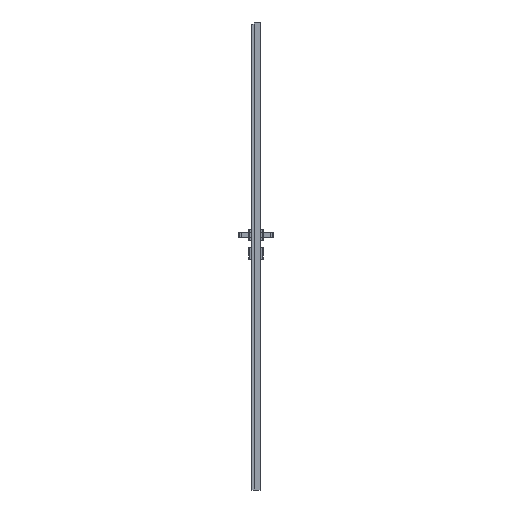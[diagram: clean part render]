
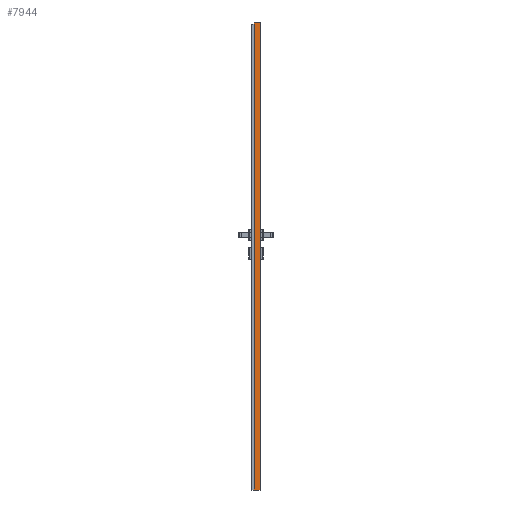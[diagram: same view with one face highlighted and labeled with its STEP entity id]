
A CAD part, left-side view. The second image highlights one B-rep face of the part: STEP entity #7944.
In plain terms, the highlighted planar face has unit normal (-1, 0, 0).
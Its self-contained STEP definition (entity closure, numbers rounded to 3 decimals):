
#7944=ADVANCED_FACE('',(#13792),#11930,.F.);
#11930=PLANE('',#71527);
#13792=FACE_OUTER_BOUND('',#17836,.T.);
#17836=EDGE_LOOP('',(#22664,#22665,#22666,#22667,#22668));
#22664=ORIENTED_EDGE('',*,*,#50018,.T.);
#22665=ORIENTED_EDGE('',*,*,#50019,.T.);
#22666=ORIENTED_EDGE('',*,*,#49927,.F.);
#22667=ORIENTED_EDGE('',*,*,#50005,.F.);
#22668=ORIENTED_EDGE('',*,*,#50015,.T.);
#43175=VERTEX_POINT('',#100687);
#43176=VERTEX_POINT('',#100689);
#43243=VERTEX_POINT('',#100845);
#43251=VERTEX_POINT('',#100866);
#43252=VERTEX_POINT('',#100871);
#49927=EDGE_CURVE('',#43175,#43176,#60317,.T.);
#50005=EDGE_CURVE('',#43243,#43175,#60375,.T.);
#50015=EDGE_CURVE('',#43243,#43251,#60381,.T.);
#50018=EDGE_CURVE('',#43251,#43252,#60384,.T.);
#50019=EDGE_CURVE('',#43252,#43176,#60385,.T.);
#60317=LINE('',#100688,#65867);
#60375=LINE('',#100846,#65925);
#60381=LINE('',#100865,#65931);
#60384=LINE('',#100870,#65934);
#60385=LINE('',#100872,#65935);
#65867=VECTOR('',#79182,1.);
#65925=VECTOR('',#79304,1.);
#65931=VECTOR('',#79322,1.);
#65934=VECTOR('',#79327,1.);
#65935=VECTOR('',#79328,1.);
#71527=AXIS2_PLACEMENT_3D('',#100873,#79329,#79330);
#79182=DIRECTION('',(0.,0.,-1.));
#79304=DIRECTION('',(0.,-1.,0.));
#79322=DIRECTION('',(0.,0.,-1.));
#79327=DIRECTION('',(0.,-1.,0.));
#79328=DIRECTION('',(0.,-0.707,0.707));
#79329=DIRECTION('',(1.,0.,0.));
#79330=DIRECTION('',(0.,0.,-1.));
#100687=CARTESIAN_POINT('',(-319.5,-39.3,2027.));
#100688=CARTESIAN_POINT('',(-319.5,-39.3,2027.));
#100689=CARTESIAN_POINT('',(-319.5,-39.3,2.));
#100845=CARTESIAN_POINT('',(-319.5,-11.5,2027.));
#100846=CARTESIAN_POINT('',(-319.5,-11.5,2027.));
#100865=CARTESIAN_POINT('',(-319.5,-11.5,2027.));
#100866=CARTESIAN_POINT('',(-319.5,-11.5,0.));
#100870=CARTESIAN_POINT('',(-319.5,-11.5,0.));
#100871=CARTESIAN_POINT('',(-319.5,-37.3,0.));
#100872=CARTESIAN_POINT('',(-319.5,-39.3,2.));
#100873=CARTESIAN_POINT('',(-319.5,-11.5,2027.));
